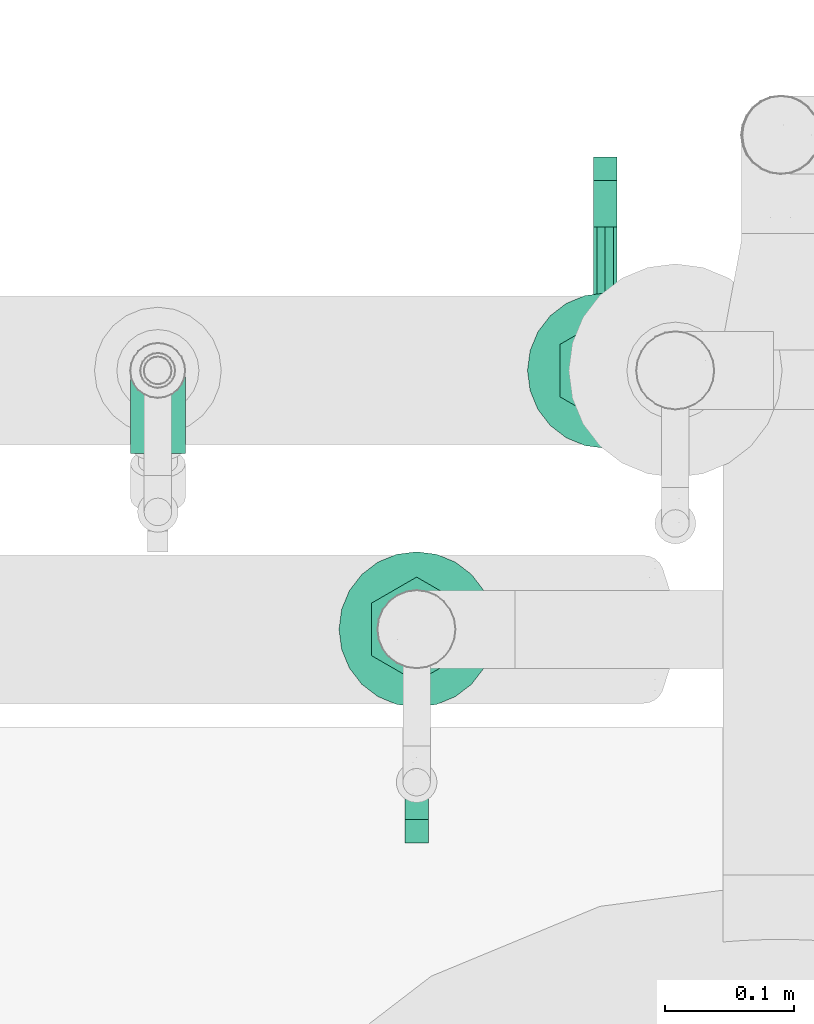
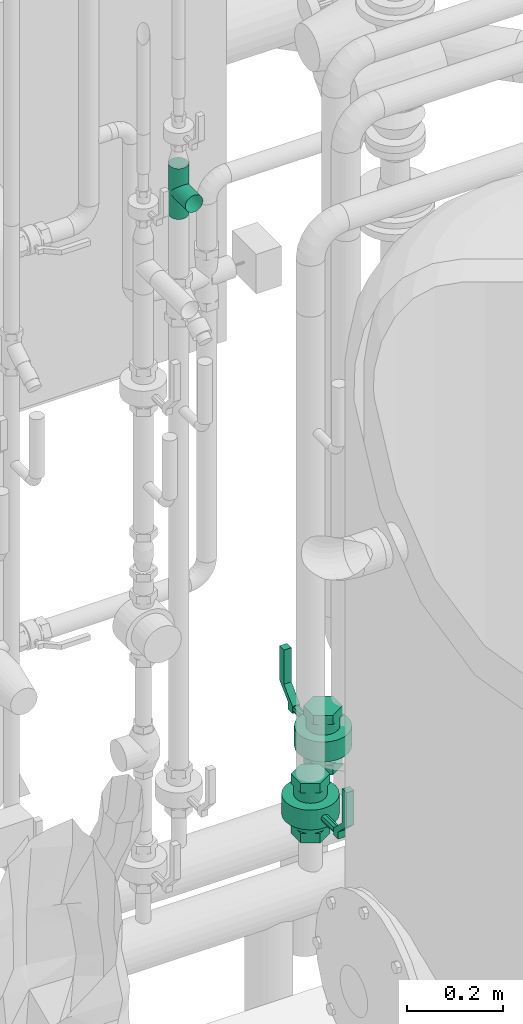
# One storey, part 109 of 374: 2 flow controllers, 1 flow fitting.
"""IFC2X3 building model written with IfcOpenShell, lengths in metres."""

import ifcopenshell
import ifcopenshell.guid

model = None  # the IFC model being written
_history = None  # IfcOwnerHistory: only IFC2X3 demands one
_inside = {}  # id of a spatial element -> (the spatial element, [elements in it])
_under = {}  # id of a project, library or spatial element -> (it, [spatial elements below it])
_declared = {}  # id of a project -> (the project, [libraries it declares])
_typed = {}  # id of a type object -> (the type object, [elements of that type])
_made_of = {}  # id of a material, layer set ... -> (it, [elements and type objects made of it])


def new_model(schema):
    """Start an empty IFC model of exactly this schema.

    Asked for "IFC4X3", IfcOpenShell would pick the latest addendum, in which some entities
    have other attributes; the version numbers below select the first issue.
    IFC2X3 requires an IfcOwnerHistory on every rooted entity: one is made here for all.
    """
    global model, _history
    if schema == "IFC4X3":
        model = ifcopenshell.file(schema_version=(4, 3, 0, 0))
    else:
        model = ifcopenshell.file(schema=schema)
    _inside.clear()
    _under.clear()
    _declared.clear()
    _typed.clear()
    _made_of.clear()
    _history = None
    if model.schema == "IFC2X3":
        org = make("IfcOrganization", Name="unknown")
        user = make(
            "IfcPersonAndOrganization",
            ThePerson=make("IfcPerson", FamilyName="unknown"),
            TheOrganization=org,
        )
        app = make(
            "IfcApplication",
            ApplicationDeveloper=org,
            Version="unknown",
            ApplicationFullName="unknown",
            ApplicationIdentifier="unknown",
        )
        _history = make(
            "IfcOwnerHistory",
            OwningUser=user,
            OwningApplication=app,
            ChangeAction="ADDED",
            CreationDate=0,
        )
    return model


def make(cls, **values):
    """One entity of the class cls with the attributes given. An attribute that is None is left unset."""
    return model.create_entity(
        cls, **{name: value for name, value in values.items() if value is not None}
    )


def rooted(cls, **values):
    """An entity with a GlobalId (a new one), such as an element, a storey or a relation."""
    return make(cls, GlobalId=ifcopenshell.guid.new(), OwnerHistory=_history, **values)


def si_unit(unit_type, name, prefix=None):
    """IfcSIUnit, for example si_unit("LENGTHUNIT", "METRE", prefix="MILLI")."""
    return make("IfcSIUnit", UnitType=unit_type, Prefix=prefix, Name=name)


def assignment(units):
    """IfcUnitAssignment: the units of a project."""
    return None if units is None else make("IfcUnitAssignment", Units=units)


def point(xyz):
    """IfcCartesianPoint."""
    return None if xyz is None else make("IfcCartesianPoint", Coordinates=xyz)


def direction(xyz):
    """IfcDirection."""
    return None if xyz is None else make("IfcDirection", DirectionRatios=xyz)


def frame(location, z_axis=None, x_axis=None):
    """IfcAxis2Placement3D, a coordinate frame: its origin and axes. An axis left out is left unset."""
    return make(
        "IfcAxis2Placement3D",
        Location=point(location),
        Axis=direction(z_axis),
        RefDirection=direction(x_axis),
    )


def origin():
    """The frame at (0, 0, 0) with its axes left unset."""
    return frame((0.0, 0.0, 0.0))


def place(relative_to, where):
    """IfcLocalPlacement: puts the frame where relative to a parent placement (None: the world)."""
    return make(
        "IfcLocalPlacement", PlacementRelTo=relative_to, RelativePlacement=where
    )


def context(
    kind, dimensions, precision=None, world=None, true_north=None, identifier=None
):
    """IfcGeometricRepresentationContext, for example the 3D "Model" context."""
    return make(
        "IfcGeometricRepresentationContext",
        ContextIdentifier=identifier,
        ContextType=kind,
        CoordinateSpaceDimension=dimensions,
        Precision=precision,
        WorldCoordinateSystem=world,
        TrueNorth=true_north,
    )


def subcontext(parent, identifier, kind, view, scale=None):
    """IfcGeometricRepresentationSubContext, for example "Body" below "Model"."""
    return make(
        "IfcGeometricRepresentationSubContext",
        ContextIdentifier=identifier,
        ContextType=kind,
        ParentContext=parent,
        TargetScale=scale,
        TargetView=view,
    )


def project(units=None, contexts=None):
    """IfcProject with its units and contexts."""
    return rooted(
        "IfcProject",
        Name="project",
        RepresentationContexts=contexts,
        UnitsInContext=assignment(units),
    )


def spatial(cls, under=None, at=None, **own):
    """A site, building, storey or space (cls), placed at a placement, below another one or the project."""
    s = rooted(cls, ObjectPlacement=at, **own)
    if under is not None:
        _under.setdefault(under.id(), (under, []))[1].append(s)
    return s


def faces_of(points, faces, orient=None, outer=None):
    """IfcFace entities. A face is a list of loops; a loop is a list of indices into points, from 0.

    orient and outer hold one flag for each loop. By default every Orientation is true, the
    first loop of a face is its IfcFaceOuterBound and the others are IfcFaceBound.
    """
    made = []
    for i, loops in enumerate(faces):
        bounds = []
        for j, loop in enumerate(loops):
            is_outer = j == 0 if outer is None else outer[i][j]
            bounds.append(
                make(
                    "IfcFaceOuterBound" if is_outer else "IfcFaceBound",
                    Bound=make("IfcPolyLoop", Polygon=[points[k] for k in loop]),
                    Orientation=True if orient is None else orient[i][j],
                )
            )
        made.append(make("IfcFace", Bounds=bounds))
    return made


def open_shell(faces, orient=None, outer=None):
    """The faces of one IfcOpenShell. surface_model builds it on its shared points."""
    return ("IfcOpenShell", faces, orient, outer)


def surface_model(cls, points, shells):
    """IfcFaceBasedSurfaceModel or IfcShellBasedSurfaceModel (cls): surfaces that need not close."""
    shared = [point(p) for p in points]
    made = [make(c, CfsFaces=faces_of(shared, fs, o, b)) for c, fs, o, b in shells]
    if cls == "IfcFaceBasedSurfaceModel":
        return make(cls, FbsmFaces=made)
    return make(cls, SbsmBoundary=made)


def shape(context_of_items, identifier, shape_type, items):
    """IfcShapeRepresentation: the items that make up one representation, for example the "Body"."""
    return make(
        "IfcShapeRepresentation",
        ContextOfItems=context_of_items,
        RepresentationIdentifier=identifier,
        RepresentationType=shape_type,
        Items=items,
    )


def source(mapping_origin, context_of_items, identifier, shape_type, items):
    """IfcRepresentationMap: a shape defined once, which mapped items show again and again."""
    return make(
        "IfcRepresentationMap",
        MappingOrigin=mapping_origin,
        MappedRepresentation=shape(context_of_items, identifier, shape_type, items),
    )


def transform(
    local_origin,
    x_axis=None,
    y_axis=None,
    z_axis=None,
    scale=None,
    scale2=None,
    scale3=None,
    uniform=True,
):
    """IfcCartesianTransformationOperator3D, or its non-uniform kind. x_axis, y_axis, z_axis: its Axis1, 2, 3."""
    if uniform:
        return make(
            "IfcCartesianTransformationOperator3D",
            Axis1=direction(x_axis),
            Axis2=direction(y_axis),
            LocalOrigin=point(local_origin),
            Scale=scale,
            Axis3=direction(z_axis),
        )
    return make(
        "IfcCartesianTransformationOperator3DnonUniform",
        Axis1=direction(x_axis),
        Axis2=direction(y_axis),
        LocalOrigin=point(local_origin),
        Scale=scale,
        Axis3=direction(z_axis),
        Scale2=scale2,
        Scale3=scale3,
    )


def mapped(mapping_source, mapping_target):
    """IfcMappedItem: shows the shape of a source again, moved by a transform."""
    return make(
        "IfcMappedItem", MappingSource=mapping_source, MappingTarget=mapping_target
    )


def made_of(thing, what):
    """Note that an element or type object is made of a material, layer set ...; save() writes the relation."""
    if what is not None:
        _made_of.setdefault(what.id(), (what, []))[1].append(thing)
    return thing


def element(
    cls,
    number,
    at=None,
    inside=None,
    cuts=None,
    type_object=None,
    material=None,
    context=None,
    identifier="Body",
    shape_type=None,
    held_by="IfcProductDefinitionShape",
    body=None,
    shapes=None,
    **own,
):
    """One element of the class cls, such as IfcWall. Its Tag is "e" and its number.

    at: its placement. inside: the storey or other place that contains it. cuts: it is an
    opening in that element (IfcRelVoidsElement). A single representation is given by context,
    identifier, shape_type and body (its items); several are given by shapes. held_by: the class
    of the entity that holds the representations. save() writes the other relations.
    """
    e = rooted(cls, Tag="e%d" % number, ObjectPlacement=at, **own)
    if body is not None:
        shapes = [shape(context, identifier, shape_type, body)]
    if shapes is not None:
        e.Representation = make(held_by, Representations=shapes)
    if inside is not None:
        _inside.setdefault(inside.id(), (inside, []))[1].append(e)
    if cuts is not None:
        rooted(
            "IfcRelVoidsElement", RelatingBuildingElement=cuts, RelatedOpeningElement=e
        )
    if type_object is not None:
        _typed.setdefault(type_object.id(), (type_object, []))[1].append(e)
    return made_of(e, material)


def aggregate(whole, parts):
    """IfcRelAggregates: a whole, such as a stair, and the parts it consists of."""
    return rooted("IfcRelAggregates", RelatingObject=whole, RelatedObjects=parts)


def save(model, path):
    """Write the relations noted so far, then the file.

    IfcRelAggregates (storeys below a building ...), IfcRelContainedInSpatialStructure (elements
    in a storey), IfcRelDefinesByType, IfcRelAssociatesMaterial and IfcRelDeclares: one each for
    every whole, place, type object, material and project.
    """
    for whole, parts in _under.values():
        aggregate(whole, parts)
    for where, things in _inside.values():
        rooted(
            "IfcRelContainedInSpatialStructure",
            RelatedElements=things,
            RelatingStructure=where,
        )
    for kind, things in _typed.values():
        rooted("IfcRelDefinesByType", RelatedObjects=things, RelatingType=kind)
    for what, things in _made_of.values():
        rooted("IfcRelAssociatesMaterial", RelatedObjects=things, RelatingMaterial=what)
    for by, libraries in _declared.values():
        rooted("IfcRelDeclares", RelatingContext=by, RelatedDefinitions=libraries)
    model.write(path)


model = new_model("IFC2X3")

# Units and contexts
model_context = context("Model", 3, precision=1e-05, world=origin(), true_north=direction((-0.4480736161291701, 0.8939966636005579)))
body_context = subcontext(model_context, "Body", "Model", "MODEL_VIEW")
ifc_project = project(units=[si_unit("LENGTHUNIT", "METRE"), si_unit("AREAUNIT", "SQUARE_METRE"), si_unit("VOLUMEUNIT", "CUBIC_METRE"), si_unit("PLANEANGLEUNIT", "RADIAN"), si_unit("THERMODYNAMICTEMPERATUREUNIT", "KELVIN"), si_unit("MASSUNIT", "GRAM", prefix="KILO"), si_unit("TIMEUNIT", "SECOND")], contexts=[model_context])

# Site, building, storey
site_placement = place(None, origin())
site = spatial("IfcSite", under=ifc_project, at=site_placement, Name="Site 1", CompositionType="ELEMENT")
building_placement = place(site_placement, origin())
building = spatial("IfcBuilding", under=site, at=building_placement, Name="Undefined", CompositionType="ELEMENT")
storey_placement = place(building_placement, origin())
storey = spatial("IfcBuildingStorey", under=building, at=storey_placement, Name="Rez de chauss\x8ee", CompositionType="ELEMENT", Elevation=0.0)

# Flow fitting
shared_shape_1 = source(origin(), body_context, "Body", "SurfaceModel", [
    surface_model("IfcFaceBasedSurfaceModel", [(0.0, 0.005534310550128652, 0.0), (0.0, 0.0, 0.0), (0.1280000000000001, -8.8817842e-16, 0.0), (0.1280000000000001, 0.005534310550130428, 0.0), (0.0, -0.00534573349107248, -0.0014323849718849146), (0.1280000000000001, -0.005345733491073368, -0.0014323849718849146), (0.0, -0.010138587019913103, -0.004199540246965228), (0.1280000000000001, -0.010138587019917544, -0.004199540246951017), (0.0, -0.01405193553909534, -0.008112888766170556), (0.1280000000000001, -0.01405193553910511, -0.008112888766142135), (0.0, -0.016819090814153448, -0.012905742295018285), (0.1280000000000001, -0.016819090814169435, -0.012905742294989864), (0.0, -0.018251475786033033, -0.018251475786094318), (0.1280000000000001, -0.01825147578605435, -0.01825147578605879), (0.0, -0.0182514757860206, -0.02378578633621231), (0.1280000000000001, -0.018251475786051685, -0.0237857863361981), (0.0, -0.01681909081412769, -0.029131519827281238), (0.1280000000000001, -0.016819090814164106, -0.029131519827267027), (0.0, -0.014051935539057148, -0.03392437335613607), (0.1280000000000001, -0.014051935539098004, -0.033924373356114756), (0.0, -0.010138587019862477, -0.037837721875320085), (0.1280000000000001, -0.010138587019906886, -0.037837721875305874), (0.0, -0.005345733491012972, -0.040604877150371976), (0.1280000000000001, -0.00534573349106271, -0.04060487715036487), (0.0, 6.4837024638e-14, -0.042037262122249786), (0.1280000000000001, 1.4210854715e-14, -0.04203726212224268), (0.0, 0.005534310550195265, -0.04203726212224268), (0.1280000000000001, 0.005534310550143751, -0.042037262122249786), (0.0, 0.010880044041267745, -0.04060487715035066), (0.1280000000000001, 0.010880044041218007, -0.04060487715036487), (0.0, 0.01567289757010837, -0.03783772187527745), (0.1280000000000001, 0.015672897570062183, -0.03783772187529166), (0.0, 0.019586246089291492, -0.033924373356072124), (0.1280000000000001, 0.01958624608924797, -0.033924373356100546), (0.0, 0.0223534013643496, -0.029131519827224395), (0.1280000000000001, 0.022353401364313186, -0.029131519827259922), (0.0, 0.02378578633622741, -0.023785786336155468), (0.1280000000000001, 0.02378578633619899, -0.023785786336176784), (0.0, 0.023785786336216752, -0.01825147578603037), (0.1280000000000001, 0.023785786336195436, -0.018251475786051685), (0.0, 0.022353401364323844, -0.012905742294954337), (0.1280000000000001, 0.02235340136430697, -0.012905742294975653), (0.0, 0.019586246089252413, -0.008112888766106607), (0.1280000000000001, 0.019586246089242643, -0.008112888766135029), (0.0, 0.015672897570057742, -0.004199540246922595), (0.1280000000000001, 0.015672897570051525, -0.004199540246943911), (0.0, 0.010880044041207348, -0.0014323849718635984), (0.1280000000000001, 0.010880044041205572, -0.0014323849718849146), (0.08519999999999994, -0.06068531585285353, -0.012664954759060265), (0.08447762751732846, -0.0614015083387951, -0.018104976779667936), (0.08447762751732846, -0.018251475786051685, -0.0237857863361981), (0.08519999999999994, -0.01825147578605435, -0.01825147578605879), (0.08235973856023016, -0.062068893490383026, -0.023174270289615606), (0.08235973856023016, -0.016819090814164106, -0.029131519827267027), (0.0789906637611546, -0.06264199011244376, -0.027527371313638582), (0.0789906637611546, -0.014051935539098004, -0.033924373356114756), (0.07459999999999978, -0.06308174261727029, -0.030867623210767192), (0.07459999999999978, -0.010138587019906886, -0.037837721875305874), (0.06948696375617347, -0.06335818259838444, -0.03296739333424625), (0.06948696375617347, -0.00534573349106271, -0.04060487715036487), (0.06400000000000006, -0.06345247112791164, -0.03368358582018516), (0.06400000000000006, 1.4210854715e-14, -0.04203726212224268), (0.058513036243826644, -0.06335818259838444, -0.03296739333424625), (0.058513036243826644, -0.00534573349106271, -0.04060487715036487), (0.05339999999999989, -0.06308174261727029, -0.030867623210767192), (0.05339999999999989, -0.010138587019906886, -0.037837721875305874), (0.04900933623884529, -0.06264199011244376, -0.027527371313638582), (0.04900933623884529, -0.014051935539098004, -0.033924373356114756), (0.045640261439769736, -0.062068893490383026, -0.023174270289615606), (0.045640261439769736, -0.016819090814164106, -0.029131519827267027), (0.043522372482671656, -0.0614015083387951, -0.018104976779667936), (0.043522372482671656, -0.018251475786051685, -0.0237857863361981), (0.04279999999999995, -0.06068531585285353, -0.012664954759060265), (0.04279999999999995, -0.01825147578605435, -0.01825147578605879), (0.043522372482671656, -0.059969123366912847, -0.007224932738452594), (0.043522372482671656, -0.016819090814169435, -0.012905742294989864), (0.045640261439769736, -0.05930173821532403, -0.0021556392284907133), (0.045640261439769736, -0.01405193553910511, -0.008112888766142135), (0.04900933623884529, -0.0587286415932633, 0.002197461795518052), (0.04900933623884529, -0.010138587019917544, -0.004199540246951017), (0.05339999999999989, -0.05828888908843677, 0.005537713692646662), (0.05339999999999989, -0.005345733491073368, -0.0014323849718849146), (0.058513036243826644, -0.05801244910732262, 0.007637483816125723), (0.058513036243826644, -8.8817842e-16, 0.0), (0.06400000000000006, -0.05791816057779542, 0.008353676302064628), (0.06400000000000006, 0.005534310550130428, 0.0), (0.06948696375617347, -0.05801244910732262, 0.007637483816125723), (0.06948696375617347, -8.8817842e-16, 0.0), (0.07459999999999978, -0.05828888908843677, 0.005537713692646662), (0.07459999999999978, -0.005345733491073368, -0.0014323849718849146), (0.0789906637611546, -0.0587286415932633, 0.002197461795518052), (0.0789906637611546, -0.010138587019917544, -0.004199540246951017), (0.08235973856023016, -0.05930173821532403, -0.0021556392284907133), (0.08235973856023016, -0.01405193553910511, -0.008112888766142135), (0.08447762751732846, -0.059969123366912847, -0.007224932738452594), (0.08447762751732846, -0.016819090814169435, -0.012905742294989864)], [open_shell([[[0, 1, 2, 3]], [[1, 4, 5, 2]], [[4, 6, 7, 5]], [[6, 8, 9, 7]], [[8, 10, 11, 9]], [[10, 12, 13, 11]], [[12, 14, 15, 13]], [[14, 16, 17, 15]], [[16, 18, 19, 17]], [[18, 20, 21, 19]], [[20, 22, 23, 21]], [[22, 24, 25, 23]], [[24, 26, 27, 25]], [[26, 28, 29, 27]], [[28, 30, 31, 29]], [[30, 32, 33, 31]], [[32, 34, 35, 33]], [[34, 36, 37, 35]], [[36, 38, 39, 37]], [[38, 40, 41, 39]], [[40, 42, 43, 41]], [[42, 44, 45, 43]], [[44, 46, 47, 45]], [[46, 0, 3, 47]], [[48, 49, 50, 51]], [[49, 52, 53, 50]], [[52, 54, 55, 53]], [[54, 56, 57, 55]], [[56, 58, 59, 57]], [[58, 60, 61, 59]], [[60, 62, 63, 61]], [[62, 64, 65, 63]], [[64, 66, 67, 65]], [[66, 68, 69, 67]], [[68, 70, 71, 69]], [[70, 72, 73, 71]], [[72, 74, 75, 73]], [[74, 76, 77, 75]], [[76, 78, 79, 77]], [[78, 80, 81, 79]], [[80, 82, 83, 81]], [[82, 84, 85, 83]], [[84, 86, 87, 85]], [[86, 88, 89, 87]], [[88, 90, 91, 89]], [[90, 92, 93, 91]], [[92, 94, 95, 93]], [[94, 48, 51, 95]]])]),
])
flow_fitting_placement = place(storey_placement, origin())
element("IfcFlowFitting", 1, at=flow_fitting_placement, inside=storey, Name="Pièce d' embranchement", ObjectType="Pièce d' embranchement", context=body_context, shape_type="MappedRepresentation", body=[
    mapped(shared_shape_1, transform((53.87803964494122, 10.912550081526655, 2.0783203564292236), x_axis=(0.0, 0.0, -1.0), y_axis=(0.13052619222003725, 0.9914448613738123, 0.0), z_axis=(0.9914448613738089, -0.13052619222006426, 0.0))),
])

# Flow controllers
shared_shape_2 = source(origin(), body_context, "Body", "SurfaceModel", [
    surface_model("IfcFaceBasedSurfaceModel", [(0.0, 0.018000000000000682, -1.776356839e-15), (0.0, 0.0, 0.0), (0.018000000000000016, 0.0, 1.776356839e-15), (0.018000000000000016, 0.018000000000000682, -1.776356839e-15), (0.0, 0.0, 0.018000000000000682), (0.018000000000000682, 0.0, 0.018000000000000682), (0.0, 0.018000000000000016, 0.018000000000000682), (0.018000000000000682, 0.018000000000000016, 0.018000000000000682), (0.0, 0.05233333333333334, 0.05400000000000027), (0.018000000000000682, 0.05233333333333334, 0.05400000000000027), (0.0, 0.139, 0.05400000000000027), (0.018000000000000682, 0.139, 0.05400000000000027), (0.0, 0.139, 0.03599999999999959), (0.018000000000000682, 0.139, 0.03599999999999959), (0.0, 0.05233333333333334, 0.03599999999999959), (0.018000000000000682, 0.05233333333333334, 0.03599999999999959), (0.04399999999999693, -0.066, -0.13120725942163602), (0.04399999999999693, -0.066, -0.0907927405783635), (0.04399999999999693, -0.04260000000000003, -0.0907927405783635), (0.04399999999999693, -0.04260000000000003, -0.13120725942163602), (0.009000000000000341, -0.066, -0.15141451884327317), (0.009000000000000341, -0.04260000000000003, -0.15141451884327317), (-0.026000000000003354, -0.066, -0.13120725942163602), (-0.026000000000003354, -0.04260000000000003, -0.13120725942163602), (-0.026000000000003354, -0.066, -0.0907927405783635), (-0.026000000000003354, -0.04260000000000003, -0.0907927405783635), (0.009000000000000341, -0.066, -0.07058548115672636), (0.009000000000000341, -0.04260000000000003, -0.07058548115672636), (-0.026000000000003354, -0.04260000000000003, -0.11100000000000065), (-0.024807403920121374, -0.04260000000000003, -0.10194133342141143), (-0.024807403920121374, -0.016000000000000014, -0.10194133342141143), (-0.026000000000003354, -0.016000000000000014, -0.11100000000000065), (-0.02131088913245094, -0.04260000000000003, -0.09350000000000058), (-0.02131088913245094, -0.016000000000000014, -0.09350000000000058), (-0.01574873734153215, -0.04260000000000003, -0.08625126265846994), (-0.01574873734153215, -0.016000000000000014, -0.08625126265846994), (-0.008500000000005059, -0.04260000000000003, -0.08068911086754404), (-0.008500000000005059, -0.016000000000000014, -0.08068911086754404), (-5.866657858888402e-05, -0.04260000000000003, -0.07719259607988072), (-5.866657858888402e-05, -0.016000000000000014, -0.07719259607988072), (0.009000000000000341, -0.04260000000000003, -0.07600000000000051), (0.009000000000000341, -0.016000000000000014, -0.07600000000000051), (0.01805866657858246, -0.04260000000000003, -0.07719259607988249), (0.01805866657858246, -0.016000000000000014, -0.07719259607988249), (0.026499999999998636, -0.04260000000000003, -0.08068911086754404), (0.026499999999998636, -0.016000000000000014, -0.08068911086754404), (0.033748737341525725, -0.04260000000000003, -0.08625126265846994), (0.033748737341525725, -0.016000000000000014, -0.08625126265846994), (0.03931088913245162, -0.04260000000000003, -0.09350000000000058), (0.03931088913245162, -0.016000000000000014, -0.09350000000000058), (0.04280740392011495, -0.04260000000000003, -0.10194133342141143), (0.04280740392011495, -0.016000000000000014, -0.10194133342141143), (0.04399999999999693, -0.04260000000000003, -0.11100000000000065), (0.04399999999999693, -0.016000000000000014, -0.11100000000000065), (0.04280740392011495, -0.04260000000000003, -0.1200586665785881), (0.04280740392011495, -0.016000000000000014, -0.1200586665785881), (0.03931088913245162, -0.04260000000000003, -0.12850000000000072), (0.03931088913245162, -0.016000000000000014, -0.12850000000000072), (0.033748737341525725, -0.04260000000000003, -0.1357487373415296), (0.033748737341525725, -0.016000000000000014, -0.1357487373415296), (0.026499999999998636, -0.04260000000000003, -0.14131088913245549), (0.026499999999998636, -0.016000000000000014, -0.14131088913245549), (0.01805866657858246, -0.04260000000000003, -0.14480740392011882), (0.01805866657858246, -0.016000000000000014, -0.14480740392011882), (0.009000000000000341, -0.04260000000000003, -0.14599999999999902), (0.009000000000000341, -0.016000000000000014, -0.14599999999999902), (-5.866657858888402e-05, -0.04260000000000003, -0.14480740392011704), (-5.866657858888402e-05, -0.016000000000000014, -0.14480740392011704), (-0.008500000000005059, -0.04260000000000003, -0.14131088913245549), (-0.008500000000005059, -0.016000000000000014, -0.14131088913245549), (-0.01574873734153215, -0.04260000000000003, -0.1357487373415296), (-0.01574873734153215, -0.016000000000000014, -0.1357487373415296), (-0.02131088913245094, -0.04260000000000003, -0.12850000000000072), (-0.02131088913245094, -0.016000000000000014, -0.12850000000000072), (-0.024807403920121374, -0.04260000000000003, -0.1200586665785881), (-0.024807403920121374, -0.016000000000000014, -0.1200586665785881), (-0.05100000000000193, -0.016000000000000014, -0.11100000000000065), (-0.048955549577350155, -0.016000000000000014, -0.09547085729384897), (-0.048955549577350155, 0.03400000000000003, -0.09547085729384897), (-0.05100000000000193, 0.03400000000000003, -0.11100000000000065), (-0.042961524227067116, -0.016000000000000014, -0.08099999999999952), (-0.042961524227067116, 0.03400000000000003, -0.08099999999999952), (-0.03342640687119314, -0.016000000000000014, -0.06857359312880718), (-0.03342640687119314, 0.03400000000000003, -0.06857359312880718), (-0.021000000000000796, -0.016000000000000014, -0.0590384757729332), (-0.021000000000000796, 0.03400000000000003, -0.0590384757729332), (-0.0065291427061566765, -0.016000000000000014, -0.05304445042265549), (-0.0065291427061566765, 0.03400000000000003, -0.05304445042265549), (0.009000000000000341, -0.016000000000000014, -0.051000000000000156), (0.009000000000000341, 0.03400000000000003, -0.051000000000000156), (0.024529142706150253, -0.016000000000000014, -0.05304445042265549), (0.024529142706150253, 0.03400000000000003, -0.05304445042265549), (0.03899999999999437, -0.016000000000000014, -0.0590384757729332), (0.03899999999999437, 0.03400000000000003, -0.0590384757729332), (0.051426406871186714, -0.016000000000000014, -0.06857359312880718), (0.051426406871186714, 0.03400000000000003, -0.06857359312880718), (0.06096152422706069, -0.016000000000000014, -0.08099999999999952), (0.06096152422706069, 0.03400000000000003, -0.08099999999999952), (0.06695554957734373, -0.016000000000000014, -0.09547085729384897), (0.06695554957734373, 0.03400000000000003, -0.09547085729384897), (0.06899999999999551, -0.016000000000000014, -0.11100000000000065), (0.06899999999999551, 0.03400000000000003, -0.11100000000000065), (0.06695554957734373, -0.016000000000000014, -0.12652914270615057), (0.06695554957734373, 0.03400000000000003, -0.12652914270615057), (0.06096152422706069, -0.016000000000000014, -0.14100000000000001), (0.06096152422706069, 0.03400000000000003, -0.14100000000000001), (0.051426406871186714, -0.016000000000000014, -0.15342640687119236), (0.051426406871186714, 0.03400000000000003, -0.15342640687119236), (0.03899999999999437, -0.016000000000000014, -0.16296152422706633), (0.03899999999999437, 0.03400000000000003, -0.16296152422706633), (0.024529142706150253, -0.016000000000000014, -0.16895554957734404), (0.024529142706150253, 0.03400000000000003, -0.16895554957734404), (0.009000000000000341, -0.016000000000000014, -0.17099999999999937), (0.009000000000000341, 0.03400000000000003, -0.17099999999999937), (-0.0065291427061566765, -0.016000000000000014, -0.16895554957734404), (-0.0065291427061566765, 0.03400000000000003, -0.16895554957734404), (-0.021000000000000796, -0.016000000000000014, -0.16296152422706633), (-0.021000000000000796, 0.03400000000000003, -0.16296152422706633), (-0.03342640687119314, -0.016000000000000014, -0.15342640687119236), (-0.03342640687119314, 0.03400000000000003, -0.15342640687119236), (-0.042961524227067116, -0.016000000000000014, -0.14100000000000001), (-0.042961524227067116, 0.03400000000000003, -0.14100000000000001), (-0.048955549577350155, -0.016000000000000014, -0.12652914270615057), (-0.048955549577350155, 0.03400000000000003, -0.12652914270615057), (0.009000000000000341, -0.016000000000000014, -0.11100000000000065), (0.009000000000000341, 0.03400000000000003, -0.11100000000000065), (-0.026000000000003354, 0.03400000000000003, -0.11100000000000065), (-0.024807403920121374, 0.03400000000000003, -0.10194133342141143), (-0.024807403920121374, 0.06059999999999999, -0.10194133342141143), (-0.026000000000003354, 0.06059999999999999, -0.11100000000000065), (-0.02131088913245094, 0.03400000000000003, -0.09350000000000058), (-0.02131088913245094, 0.06059999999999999, -0.09350000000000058), (-0.01574873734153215, 0.03400000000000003, -0.08625126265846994), (-0.01574873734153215, 0.06059999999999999, -0.08625126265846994), (-0.008500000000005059, 0.03400000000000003, -0.08068911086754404), (-0.008500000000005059, 0.06059999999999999, -0.08068911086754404), (-5.866657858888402e-05, 0.03400000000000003, -0.07719259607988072), (-5.866657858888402e-05, 0.06059999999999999, -0.07719259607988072), (0.009000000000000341, 0.03400000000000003, -0.07600000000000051), (0.009000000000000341, 0.06059999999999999, -0.07600000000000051), (0.01805866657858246, 0.03400000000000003, -0.07719259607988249), (0.01805866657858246, 0.06059999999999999, -0.07719259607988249), (0.026499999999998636, 0.03400000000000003, -0.08068911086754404), (0.026499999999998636, 0.06059999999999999, -0.08068911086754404), (0.033748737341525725, 0.03400000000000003, -0.08625126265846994), (0.033748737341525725, 0.06059999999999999, -0.08625126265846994), (0.03931088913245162, 0.03400000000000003, -0.09350000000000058), (0.03931088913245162, 0.06059999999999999, -0.09350000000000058), (0.04280740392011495, 0.03400000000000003, -0.10194133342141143), (0.04280740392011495, 0.06059999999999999, -0.10194133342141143), (0.04399999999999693, 0.03400000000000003, -0.11100000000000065), (0.04399999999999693, 0.06059999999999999, -0.11100000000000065), (0.04280740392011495, 0.03400000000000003, -0.1200586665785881), (0.04280740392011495, 0.06059999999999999, -0.1200586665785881), (0.03931088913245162, 0.03400000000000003, -0.12850000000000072), (0.03931088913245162, 0.06059999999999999, -0.12850000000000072), (0.033748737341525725, 0.03400000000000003, -0.1357487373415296), (0.033748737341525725, 0.06059999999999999, -0.1357487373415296), (0.026499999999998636, 0.03400000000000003, -0.14131088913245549), (0.026499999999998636, 0.06059999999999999, -0.14131088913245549), (0.01805866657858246, 0.03400000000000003, -0.14480740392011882), (0.01805866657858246, 0.06059999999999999, -0.14480740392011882), (0.009000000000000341, 0.03400000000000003, -0.14599999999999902), (0.009000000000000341, 0.06059999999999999, -0.14599999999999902), (-5.866657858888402e-05, 0.03400000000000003, -0.14480740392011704), (-5.866657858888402e-05, 0.06059999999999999, -0.14480740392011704), (-0.008500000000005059, 0.03400000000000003, -0.14131088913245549), (-0.008500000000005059, 0.06059999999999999, -0.14131088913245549), (-0.01574873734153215, 0.03400000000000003, -0.1357487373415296), (-0.01574873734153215, 0.06059999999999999, -0.1357487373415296), (-0.02131088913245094, 0.03400000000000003, -0.12850000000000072), (-0.02131088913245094, 0.06059999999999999, -0.12850000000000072), (-0.024807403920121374, 0.03400000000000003, -0.1200586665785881), (-0.024807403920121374, 0.06059999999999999, -0.1200586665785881), (0.04399999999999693, 0.06059999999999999, -0.13120725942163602), (0.04399999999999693, 0.06059999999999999, -0.0907927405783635), (0.04399999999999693, 0.08399999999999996, -0.0907927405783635), (0.04399999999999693, 0.08399999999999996, -0.13120725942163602), (0.009000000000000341, 0.06059999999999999, -0.15141451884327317), (0.009000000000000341, 0.08399999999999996, -0.15141451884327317), (-0.026000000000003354, 0.06059999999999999, -0.13120725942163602), (-0.026000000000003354, 0.08399999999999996, -0.13120725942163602), (-0.026000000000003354, 0.06059999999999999, -0.0907927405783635), (-0.026000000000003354, 0.08399999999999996, -0.0907927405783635), (0.009000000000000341, 0.06059999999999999, -0.07058548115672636), (0.009000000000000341, 0.08399999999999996, -0.07058548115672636), (0.009000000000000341, 0.018000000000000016, -0.11100000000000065), (0.002636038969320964, 0.015363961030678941, -0.11100000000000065), (0.002636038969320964, 0.015363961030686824, -3.552713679e-15), (0.009000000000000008, 0.018000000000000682, -1.776356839e-15), (0.0, 0.009000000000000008, -0.11100000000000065), (0.0, 0.009000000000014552, -1.776356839e-15), (0.002636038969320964, 0.002636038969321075, -0.11100000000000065), (0.002636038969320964, 0.0026360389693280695, -1.776356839e-15), (0.009000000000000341, 0.0, -0.11100000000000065), (0.009000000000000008, 0.0, 1.776356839e-15), (0.015363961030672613, 0.002636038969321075, -0.11100000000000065), (0.015363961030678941, 0.0026360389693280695, -1.776356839e-15), (0.018000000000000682, 0.009000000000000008, -0.11100000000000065), (0.018000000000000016, 0.009000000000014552, -1.776356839e-15), (0.015363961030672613, 0.015363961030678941, -0.11100000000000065), (0.015363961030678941, 0.015363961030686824, -3.552713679e-15)], [open_shell([[[0, 1, 2, 3]], [[1, 4, 5, 2]], [[4, 6, 7, 5]], [[6, 8, 9, 7]], [[8, 10, 11, 9]], [[10, 12, 13, 11]], [[12, 14, 15, 13]], [[14, 0, 3, 15]], [[3, 7, 2]], [[7, 3, 9]], [[15, 9, 3]], [[9, 15, 11]], [[13, 11, 15]], [[5, 2, 7]], [[1, 6, 0]], [[8, 0, 6]], [[0, 8, 14]], [[10, 14, 8]], [[14, 10, 12]], [[6, 1, 4]], [[16, 17, 18, 19]], [[20, 16, 19, 21]], [[22, 20, 21, 23]], [[24, 22, 23, 25]], [[26, 24, 25, 27]], [[17, 26, 27, 18]], [[17, 16, 20]], [[17, 20, 22]], [[17, 22, 24]], [[17, 24, 26]], [[18, 21, 19]], [[18, 23, 21]], [[18, 25, 23]], [[18, 27, 25]], [[28, 29, 30, 31]], [[29, 32, 33, 30]], [[32, 34, 35, 33]], [[34, 36, 37, 35]], [[36, 38, 39, 37]], [[38, 40, 41, 39]], [[40, 42, 43, 41]], [[42, 44, 45, 43]], [[44, 46, 47, 45]], [[46, 48, 49, 47]], [[48, 50, 51, 49]], [[50, 52, 53, 51]], [[52, 54, 55, 53]], [[54, 56, 57, 55]], [[56, 58, 59, 57]], [[58, 60, 61, 59]], [[60, 62, 63, 61]], [[62, 64, 65, 63]], [[64, 66, 67, 65]], [[66, 68, 69, 67]], [[68, 70, 71, 69]], [[70, 72, 73, 71]], [[72, 74, 75, 73]], [[74, 28, 31, 75]], [[76, 77, 78, 79]], [[77, 80, 81, 78]], [[80, 82, 83, 81]], [[82, 84, 85, 83]], [[84, 86, 87, 85]], [[86, 88, 89, 87]], [[88, 90, 91, 89]], [[90, 92, 93, 91]], [[92, 94, 95, 93]], [[94, 96, 97, 95]], [[96, 98, 99, 97]], [[98, 100, 101, 99]], [[100, 102, 103, 101]], [[102, 104, 105, 103]], [[104, 106, 107, 105]], [[106, 108, 109, 107]], [[108, 110, 111, 109]], [[110, 112, 113, 111]], [[112, 114, 115, 113]], [[114, 116, 117, 115]], [[116, 118, 119, 117]], [[118, 120, 121, 119]], [[120, 122, 123, 121]], [[122, 76, 79, 123]], [[124, 77, 76]], [[124, 80, 77]], [[124, 82, 80]], [[124, 84, 82]], [[124, 86, 84]], [[124, 88, 86]], [[124, 90, 88]], [[124, 92, 90]], [[124, 94, 92]], [[124, 96, 94]], [[124, 98, 96]], [[124, 100, 98]], [[124, 102, 100]], [[124, 104, 102]], [[124, 106, 104]], [[124, 108, 106]], [[124, 110, 108]], [[124, 112, 110]], [[124, 114, 112]], [[124, 116, 114]], [[124, 118, 116]], [[124, 120, 118]], [[124, 122, 120]], [[124, 76, 122]], [[125, 123, 79]], [[125, 121, 123]], [[125, 119, 121]], [[125, 117, 119]], [[125, 115, 117]], [[125, 113, 115]], [[125, 111, 113]], [[125, 109, 111]], [[125, 107, 109]], [[125, 105, 107]], [[125, 103, 105]], [[125, 101, 103]], [[125, 99, 101]], [[125, 97, 99]], [[125, 95, 97]], [[125, 93, 95]], [[125, 91, 93]], [[125, 89, 91]], [[125, 87, 89]], [[125, 85, 87]], [[125, 83, 85]], [[125, 81, 83]], [[125, 78, 81]], [[125, 79, 78]], [[126, 127, 128, 129]], [[127, 130, 131, 128]], [[130, 132, 133, 131]], [[132, 134, 135, 133]], [[134, 136, 137, 135]], [[136, 138, 139, 137]], [[138, 140, 141, 139]], [[140, 142, 143, 141]], [[142, 144, 145, 143]], [[144, 146, 147, 145]], [[146, 148, 149, 147]], [[148, 150, 151, 149]], [[150, 152, 153, 151]], [[152, 154, 155, 153]], [[154, 156, 157, 155]], [[156, 158, 159, 157]], [[158, 160, 161, 159]], [[160, 162, 163, 161]], [[162, 164, 165, 163]], [[164, 166, 167, 165]], [[166, 168, 169, 167]], [[168, 170, 171, 169]], [[170, 172, 173, 171]], [[172, 126, 129, 173]], [[174, 175, 176, 177]], [[178, 174, 177, 179]], [[180, 178, 179, 181]], [[182, 180, 181, 183]], [[184, 182, 183, 185]], [[175, 184, 185, 176]], [[175, 174, 178]], [[175, 178, 180]], [[175, 180, 182]], [[175, 182, 184]], [[176, 179, 177]], [[176, 181, 179]], [[176, 183, 181]], [[176, 185, 183]], [[186, 187, 188, 189]], [[187, 190, 191, 188]], [[190, 192, 193, 191]], [[192, 194, 195, 193]], [[194, 196, 197, 195]], [[196, 198, 199, 197]], [[198, 200, 201, 199]], [[200, 186, 189, 201]]])]),
])
flow_controller_1_placement = place(storey_placement, origin())
element("IfcFlowController", 2, at=flow_controller_1_placement, inside=storey, Name="Robinet à boisseau sphérique", ObjectType="Robinet à boisseau sphérique", context=body_context, shape_type="MappedRepresentation", body=[
    mapped(shared_shape_2, transform((54.04856201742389, 10.607037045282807, 0.49975000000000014), x_axis=(1.0, 0.0, 0.0), y_axis=(0.0, 0.0, 1.0), z_axis=(0.0, -1.0, 0.0))),
])
flow_controller_2_placement = place(storey_placement, origin())
element("IfcFlowController", 3, at=flow_controller_2_placement, inside=storey, Name="Robinet à boisseau sphérique", ObjectType="Robinet à boisseau sphérique", context=body_context, shape_type="MappedRepresentation", body=[
    mapped(shared_shape_2, transform((54.21223167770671, 11.029037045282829, 0.49974999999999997), x_axis=(-1.0, 0.0, 0.0), y_axis=(0.0, 0.0, 1.0), z_axis=(0.0, 1.0, 0.0))),
])

save(model, "model.ifc")
